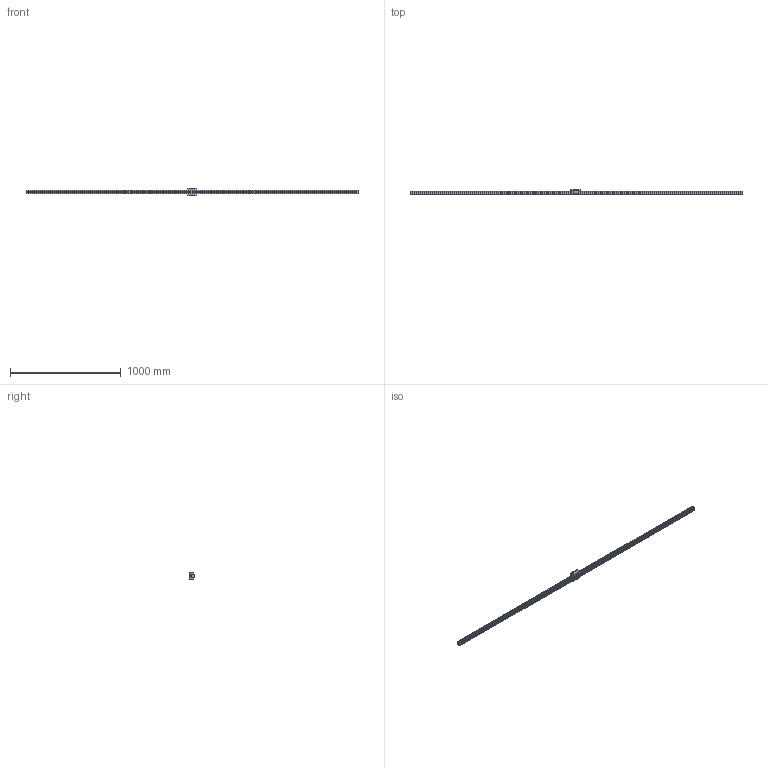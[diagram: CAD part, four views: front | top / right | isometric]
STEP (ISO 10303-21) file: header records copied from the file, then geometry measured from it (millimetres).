
FILE_DESCRIPTION(/* description */ ('STEP AP214'),/* implementation_level */ '2;1');
FILE_NAME(/* name */ 'HDR35SV1SS-3000L_G20_0_B-M6F_1457-9_0_0_01',/* time_stamp */ '2023-06-30T12:58:31+02:00',/* author */ ('License CC BY-ND 4.0'),/* organization */ ('CADENAS'),/* preprocessor_version */ 'ST-DEVELOPER v19.3',/* originating_system */ 'PARTsolutions',/* authorisation */ ' ');
FILE_SCHEMA (('AUTOMOTIVE_DESIGN {1 0 10303 214 3 1 1}'));
Length unit declared in the file: millimetre
Products named in the file (4): HDR35SV1SS-3000L_G20_0_B-M6F_1457-9_0_0_01; hsr_ftht_B-M6F_grease_nipple_joint; HDR35SVSSB-M6F1 Slider; HDR35SV1300020 Rail
Assembly tree (3 placements, depth 2):
  HDR35SV1SS-3000L_G20_0_B-M6F_1457-9_0_0_01
    hsr_ftht_B-M6F_grease_nipple_joint
    HDR35SVSSB-M6F1 Slider
    HDR35SV1300020 Rail
Bounding box: 3000 x 48 x 70 mm (x, y, z)
Volume: 2674570.6 mm3; surface area: 478322.1 mm2
Topology: 3 solids, 3 shells, 433 faces, 1117 edges, 697 vertices
Faces by surface type: plane 268, cylinder 141, cone 19, sphere 3, torus 2
Full cylindrical faces by diameter (mm): 4.917 x2, 5.2 x4, 6 x1, 6.647 x3, 8 x1, 9 x38, 10 x2, 14 x38
Entity records: 12895 total; most frequent: DIRECTION 2346, CARTESIAN_POINT 2227, ORIENTED_EDGE 1998, EDGE_CURVE 999, AXIS2_PLACEMENT_3D 934, VERTEX_POINT 691, FACE_BOUND 628, EDGE_LOOP 623
